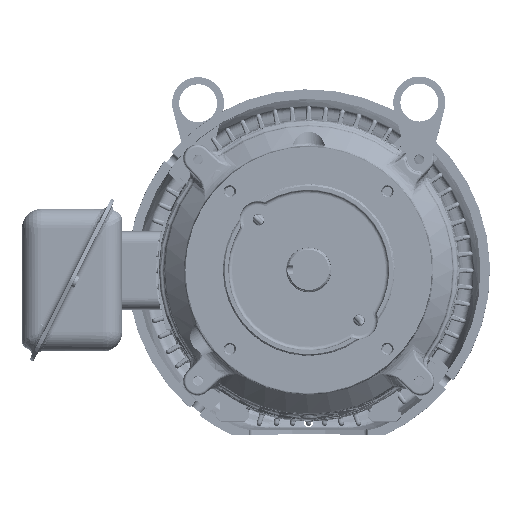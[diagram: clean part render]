
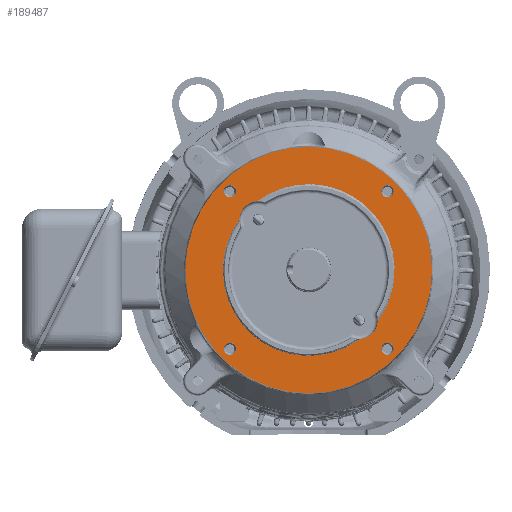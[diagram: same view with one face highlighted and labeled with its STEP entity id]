
A CAD part, top view. The second image highlights one B-rep face of the part: STEP entity #189487.
In plain terms, the highlighted planar face has unit normal (0, 0, 1) as drawn and (0, 0, -1) by its records, which use the part's own axes.
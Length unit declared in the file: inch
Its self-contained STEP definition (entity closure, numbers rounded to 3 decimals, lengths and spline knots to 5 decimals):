
#174970=CARTESIAN_POINT('',(0.,0.,-1.641));
#174971=DIRECTION('',(0.,0.,-1.));
#174972=DIRECTION('',(0.,-1.,0.));
#174973=AXIS2_PLACEMENT_3D('',#174970,#174971,#174972);
#175156=CARTESIAN_POINT('',(0.,0.,-1.641));
#175157=DIRECTION('',(0.,0.,-1.));
#175158=DIRECTION('',(0.,1.,0.));
#175159=AXIS2_PLACEMENT_3D('',#175156,#175157,#175158);
#175161=CARTESIAN_POINT('',(1.32583,1.32583,-1.641));
#175162=DIRECTION('',(0.,0.,1.));
#175163=DIRECTION('',(0.999,0.048,0.));
#175164=AXIS2_PLACEMENT_3D('',#175161,#175162,#175163);
#175166=CARTESIAN_POINT('',(-1.32583,-1.32583,-1.641));
#175167=DIRECTION('',(0.,0.,1.));
#175168=DIRECTION('',(-0.999,-0.048,0.));
#175169=AXIS2_PLACEMENT_3D('',#175166,#175167,#175168);
#175171=CARTESIAN_POINT('',(-2.07713,2.07713,-1.641));
#175172=DIRECTION('',(0.,0.,1.));
#175173=DIRECTION('',(-0.707,0.707,0.));
#175174=AXIS2_PLACEMENT_3D('',#175171,#175172,#175173);
#175176=CARTESIAN_POINT('',(-2.07713,2.07713,-1.641));
#175177=DIRECTION('',(0.,0.,1.));
#175178=DIRECTION('',(0.707,-0.707,0.));
#175179=AXIS2_PLACEMENT_3D('',#175176,#175177,#175178);
#175181=CARTESIAN_POINT('',(-2.07713,-2.07713,-1.641));
#175182=DIRECTION('',(0.,0.,1.));
#175183=DIRECTION('',(-0.707,-0.707,0.));
#175184=AXIS2_PLACEMENT_3D('',#175181,#175182,#175183);
#175186=CARTESIAN_POINT('',(-2.07713,-2.07713,-1.641));
#175187=DIRECTION('',(0.,0.,1.));
#175188=DIRECTION('',(0.707,0.707,0.));
#175189=AXIS2_PLACEMENT_3D('',#175186,#175187,#175188);
#175191=CARTESIAN_POINT('',(2.07713,-2.07713,-1.641));
#175192=DIRECTION('',(0.,0.,1.));
#175193=DIRECTION('',(0.707,-0.707,0.));
#175194=AXIS2_PLACEMENT_3D('',#175191,#175192,#175193);
#175196=CARTESIAN_POINT('',(2.07713,-2.07713,-1.641));
#175197=DIRECTION('',(0.,0.,1.));
#175198=DIRECTION('',(-0.707,0.707,0.));
#175199=AXIS2_PLACEMENT_3D('',#175196,#175197,#175198);
#175201=CARTESIAN_POINT('',(2.07713,2.07713,-1.641));
#175202=DIRECTION('',(0.,0.,1.));
#175203=DIRECTION('',(0.707,0.707,0.));
#175204=AXIS2_PLACEMENT_3D('',#175201,#175202,#175203);
#175206=CARTESIAN_POINT('',(2.07713,2.07713,-1.641));
#175207=DIRECTION('',(0.,0.,1.));
#175208=DIRECTION('',(-0.707,-0.707,0.));
#175209=AXIS2_PLACEMENT_3D('',#175206,#175207,#175208);
#175255=CARTESIAN_POINT('',(0.,0.,-1.641));
#175256=DIRECTION('',(0.,0.,1.));
#175257=DIRECTION('',(0.596,0.803,0.));
#175258=AXIS2_PLACEMENT_3D('',#175255,#175256,#175257);
#175260=CARTESIAN_POINT('',(0.,0.,-1.641));
#175261=DIRECTION('',(0.,0.,1.));
#175262=DIRECTION('',(-0.596,-0.803,0.));
#175263=AXIS2_PLACEMENT_3D('',#175260,#175261,#175262);
#184122=CARTESIAN_POINT('',(0.,3.25175,-1.641));
#184123=CARTESIAN_POINT('',(0.,-3.25175,-1.641));
#184124=VERTEX_POINT('',#184122);
#184125=VERTEX_POINT('',#184123);
#184134=CARTESIAN_POINT('',(1.82022,1.34964,-1.641));
#184135=CARTESIAN_POINT('',(1.34964,1.82022,-1.641));
#184136=VERTEX_POINT('',#184134);
#184137=VERTEX_POINT('',#184135);
#184150=CARTESIAN_POINT('',(-1.82022,-1.34964,-1.641));
#184151=CARTESIAN_POINT('',(-1.34964,-1.82022,-1.641));
#184152=VERTEX_POINT('',#184150);
#184153=VERTEX_POINT('',#184151);
#184164=CARTESIAN_POINT('',(-2.1914,2.1914,-1.641));
#184165=CARTESIAN_POINT('',(-1.96285,1.96285,-1.641));
#184166=VERTEX_POINT('',#184164);
#184167=VERTEX_POINT('',#184165);
#184168=CARTESIAN_POINT('',(-2.1914,-2.1914,-1.641));
#184169=CARTESIAN_POINT('',(-1.96285,-1.96285,-1.641));
#184170=VERTEX_POINT('',#184168);
#184171=VERTEX_POINT('',#184169);
#184172=CARTESIAN_POINT('',(2.1914,-2.1914,-1.641));
#184173=CARTESIAN_POINT('',(1.96285,-1.96285,-1.641));
#184174=VERTEX_POINT('',#184172);
#184175=VERTEX_POINT('',#184173);
#184176=CARTESIAN_POINT('',(2.1914,2.1914,-1.641));
#184177=CARTESIAN_POINT('',(1.96285,1.96285,-1.641));
#184178=VERTEX_POINT('',#184176);
#184179=VERTEX_POINT('',#184177);
#189444=CARTESIAN_POINT('',(0.,0.,-1.641));
#189445=DIRECTION('',(0.,0.,1.));
#189446=DIRECTION('',(0.,1.,0.));
#189447=AXIS2_PLACEMENT_3D('',#189444,#189445,#189446);
#189448=PLANE('',#189447);
#189449=ORIENTED_EDGE('',*,*,#188911,.F.);
#189450=ORIENTED_EDGE('',*,*,#188972,.F.);
#189451=EDGE_LOOP('',(#189449,#189450));
#189452=FACE_OUTER_BOUND('',#189451,.F.);
#189454=ORIENTED_EDGE('',*,*,#189453,.F.);
#189456=ORIENTED_EDGE('',*,*,#189455,.F.);
#189458=ORIENTED_EDGE('',*,*,#189457,.F.);
#189460=ORIENTED_EDGE('',*,*,#189459,.F.);
#189461=EDGE_LOOP('',(#189454,#189456,#189458,#189460));
#189462=FACE_BOUND('',#189461,.F.);
#189464=ORIENTED_EDGE('',*,*,#189463,.F.);
#189466=ORIENTED_EDGE('',*,*,#189465,.F.);
#189467=EDGE_LOOP('',(#189464,#189466));
#189468=FACE_BOUND('',#189467,.F.);
#189470=ORIENTED_EDGE('',*,*,#189469,.F.);
#189472=ORIENTED_EDGE('',*,*,#189471,.F.);
#189473=EDGE_LOOP('',(#189470,#189472));
#189474=FACE_BOUND('',#189473,.F.);
#189476=ORIENTED_EDGE('',*,*,#189475,.F.);
#189478=ORIENTED_EDGE('',*,*,#189477,.F.);
#189479=EDGE_LOOP('',(#189476,#189478));
#189480=FACE_BOUND('',#189479,.F.);
#189482=ORIENTED_EDGE('',*,*,#189481,.F.);
#189484=ORIENTED_EDGE('',*,*,#189483,.F.);
#189485=EDGE_LOOP('',(#189482,#189484));
#189486=FACE_BOUND('',#189485,.F.);
#189487=ADVANCED_FACE('',(#189452,#189462,#189468,#189474,#189480,#189486),
#189448,.F.);
#174974=CIRCLE('',#174973,3.25175);
#175160=CIRCLE('',#175159,3.25175);
#175165=CIRCLE('',#175164,0.49497);
#175170=CIRCLE('',#175169,0.49497);
#175175=CIRCLE('',#175174,0.16161);
#175180=CIRCLE('',#175179,0.16161);
#175185=CIRCLE('',#175184,0.16161);
#175190=CIRCLE('',#175189,0.16161);
#175195=CIRCLE('',#175194,0.16161);
#175200=CIRCLE('',#175199,0.16161);
#175205=CIRCLE('',#175204,0.16161);
#175210=CIRCLE('',#175209,0.16161);
#175259=CIRCLE('',#175258,2.266);
#175264=CIRCLE('',#175263,2.266);
#188911=EDGE_CURVE('',#184124,#184125,#175160,.T.);
#188972=EDGE_CURVE('',#184125,#184124,#174974,.T.);
#189453=EDGE_CURVE('',#184136,#184137,#175165,.T.);
#189455=EDGE_CURVE('',#184153,#184136,#175264,.T.);
#189457=EDGE_CURVE('',#184152,#184153,#175170,.T.);
#189459=EDGE_CURVE('',#184137,#184152,#175259,.T.);
#189463=EDGE_CURVE('',#184166,#184167,#175175,.T.);
#189465=EDGE_CURVE('',#184167,#184166,#175180,.T.);
#189469=EDGE_CURVE('',#184170,#184171,#175185,.T.);
#189471=EDGE_CURVE('',#184171,#184170,#175190,.T.);
#189475=EDGE_CURVE('',#184174,#184175,#175195,.T.);
#189477=EDGE_CURVE('',#184175,#184174,#175200,.T.);
#189481=EDGE_CURVE('',#184178,#184179,#175205,.T.);
#189483=EDGE_CURVE('',#184179,#184178,#175210,.T.);
